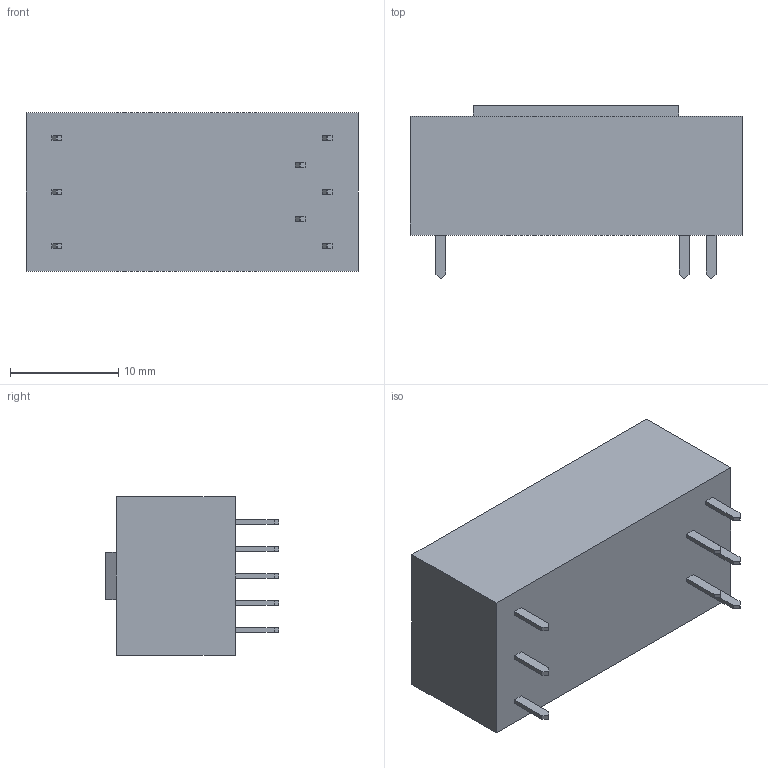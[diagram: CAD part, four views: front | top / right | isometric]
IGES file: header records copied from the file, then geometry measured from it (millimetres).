
Start section: SolidWorks IGES file using analytic representation for surfaces
Global section: file name: D:\X - Arquivos\PROEX\Empresas\P11 - METALTEX\01 - Produtos\IGES\7ª remessa\2ª etapa\RD2RC3.IGS; native system: SolidWorks 2012; preprocessor: SolidWorks 2012; author: Usuario; date: 190912.134752; units: millimetre
Bounding box: 30.7 x 16 x 14.7 mm (x, y, z)
Surface area: 2217.4 mm2 (no closed solid volume)
Topology: 0 solids, 0 shells, 158 faces, 804 edges, 804 vertices
Faces by surface type: bspline 158
